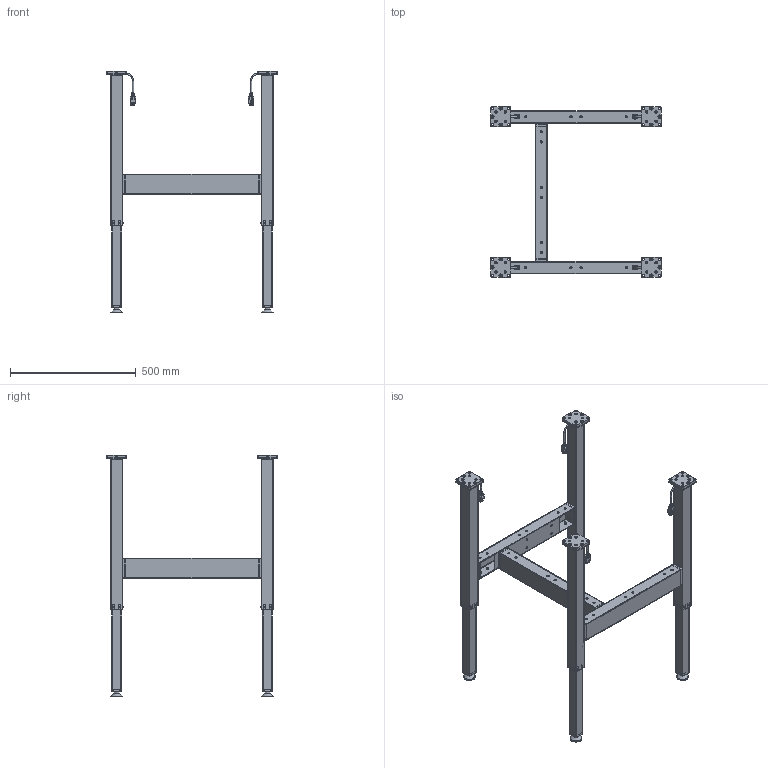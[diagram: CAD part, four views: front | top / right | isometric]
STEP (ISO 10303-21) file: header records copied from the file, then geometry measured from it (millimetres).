
FILE_DESCRIPTION(/* description */ ('Unknown'),/* implementation_level */ '2;1');
FILE_NAME(/* name */ 'Untergestell SE.3 4330 600_00-Ausgefahren',/* time_stamp */ '2022-02-03T17:09:01+01:00',/* author */ ('Unknown'),/* organization */ ('Unknown'),/* preprocessor_version */ 'ST-DEVELOPER v18.1',/* originating_system */ 'Solid Edge',/* authorisation */ 'Unknown');
FILE_SCHEMA (('AUTOMOTIVE_DESIGN {1 0 10303 214 3 1 1}'));
Length unit declared in the file: millimetre
Products named in the file (26): Untergestell SE.3 4330 600; 908.02003_oa_0; 127.00655; 127.00658; Aussenrohr 50x50x2 bearbeitet_2018 08 15; Flanschplatte_2018 08 15; Anschweissplatte Traverse_2018 08 15; 127.00658_515_565_Kehlnaht 2_oa_1; 127.00658_515_565_Kehlnaht 2_oa_2; 127.00660; Innenrohr 40x40x2_2018 08 15; Bodenplatte_2018 0815; 128.00070; 142.00077; 142.00166; Kabel Molex; 908.02003_oa_3; 115.00150; 127.00365; 127.00055; 127.00039; 113.00006; 113.00006-ohne Mutter; Mutter M10; 908.02003_oa_6; 908.02003_oa_9
Assembly tree (100 placements, depth 4):
  Untergestell SE.3 4330 600
    908.02003_oa_0
      127.00655
      127.00658
        Aussenrohr 50x50x2 bearbeitet_2018 08 15
        Flanschplatte_2018 08 15
        Anschweissplatte Traverse_2018 08 15
        127.00658_515_565_Kehlnaht 2_oa_1
        127.00658_515_565_Kehlnaht 2_oa_2
      127.00660
        Innenrohr 40x40x2_2018 08 15
        Bodenplatte_2018 0815
      128.00070  x8
      142.00077  x3
      142.00166  x4
      Kabel Molex
    908.02003_oa_3
      127.00655
      127.00658
        Aussenrohr 50x50x2 bearbeitet_2018 08 15
        Flanschplatte_2018 08 15
        Anschweissplatte Traverse_2018 08 15
        127.00658_515_565_Kehlnaht 2_oa_1
        127.00658_515_565_Kehlnaht 2_oa_2
      127.00660
        Innenrohr 40x40x2_2018 08 15
        Bodenplatte_2018 0815
      128.00070  x8
      142.00077  x3
      142.00166  x4
      Kabel Molex
    115.00150  x3
      127.00365
        127.00055
        127.00039  x2
    113.00006  x4
      113.00006-ohne Mutter
      Mutter M10
    908.02003_oa_6
      127.00655
      127.00658
        Aussenrohr 50x50x2 bearbeitet_2018 08 15
        Flanschplatte_2018 08 15
        Anschweissplatte Traverse_2018 08 15
        127.00658_515_565_Kehlnaht 2_oa_1
        127.00658_515_565_Kehlnaht 2_oa_2
      127.00660
        Innenrohr 40x40x2_2018 08 15
        Bodenplatte_2018 0815
      128.00070  x8
      142.00077  x3
      142.00166  x4
      Kabel Molex
    908.02003_oa_9
      127.00655
      127.00658
        Aussenrohr 50x50x2 bearbeitet_2018 08 15
        Flanschplatte_2018 08 15
        Anschweissplatte Traverse_2018 08 15
        127.00658_515_565_Kehlnaht 2_oa_1
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Bounding box: 680 x 680 x 963 mm (x, y, z)
Volume: 2845788.6 mm3; surface area: 2519030.4 mm2
Topology: 141 solids, 141 shells, 4298 faces, 10996 edges, 7252 vertices
Faces by surface type: plane 2878, cylinder 900, torus 220, cone 156, bspline 144
Full cylindrical faces by diameter (mm): 4.917 x82, 5 x24, 5.5 x16, 6 x12, 6.5 x12, 6.647 x12, 6.8 x24, 8.376 x8, 8.5 x16, 9 x86, 9.5 x4, 10 x20, 13 x12, 15 x4, 19 x4, 25 x4, 29 x4, 35 x4, 39 x4, 47 x4
Entity records: 32898 total; most frequent: CARTESIAN_POINT 6365, DIRECTION 4422, ORIENTED_EDGE 4138, EDGE_CURVE 2069, AXIS2_PLACEMENT_3D 1547, VERTEX_POINT 1423, LINE 1328, VECTOR 1328
